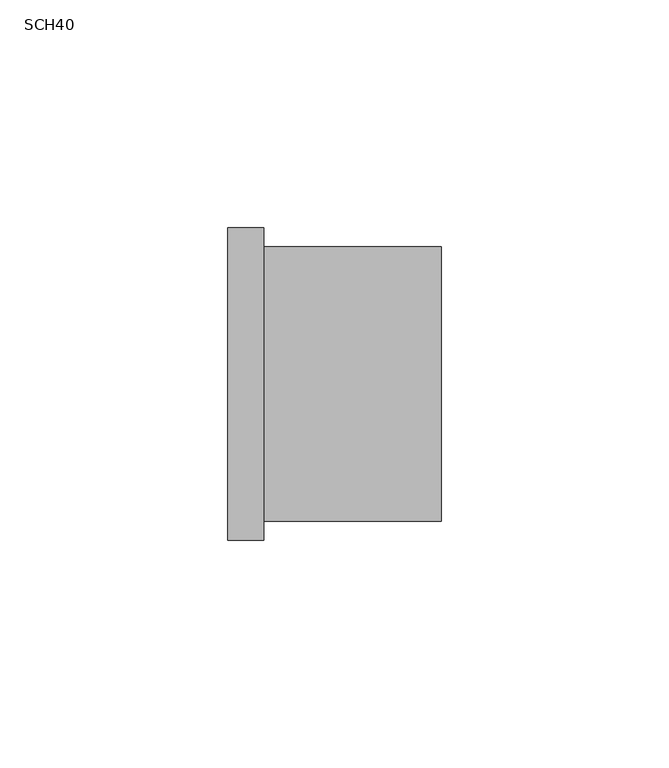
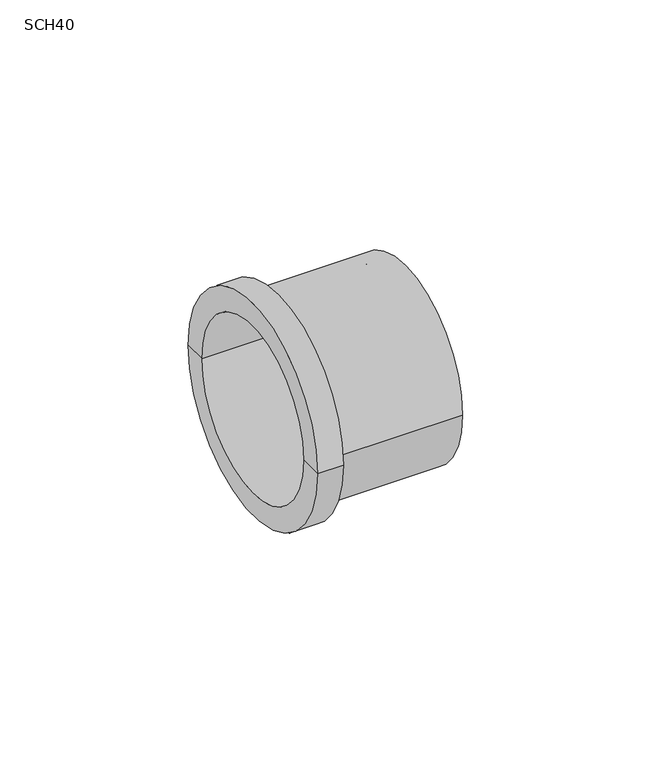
"""IFC4 building model written with IfcOpenShell, lengths in millimetres: pipe fitting geometry."""

from ifc_helpers import new_model, si_unit, frame, origin, place, context, project, spatial, polyline, circle_curve, source, transform, mapped, element, save
from ifc_brep_helpers import plane_surface, cylinder_surface, revolved_surface, advanced_brep


def sch40_d8840ade(model_context):
    return source(origin(), model_context, "Body", "AdvancedBrep", [
        advanced_brep(
        [(1.6, -30.15, 0.0), (1.6, 30.15, 0.0), (1.6, 26.1, 0.0), (1.6, -26.1, 0.0), (-1.6, -26.1, 0.0), (-1.6, 26.1, 0.0), (-1.6, 27.1, 0.0), (-1.6, -27.1, 0.0), (-45.3, 27.1, 0.0), (-45.3, -27.1, 0.0), (-45.3, 34.35, 0.0), (-45.3, -34.35, 0.0), (-37.4, 34.35, 0.0), (-37.4, -34.35, 0.0), (-37.4, 30.15, 0.0), (-37.4, -30.15, 0.0)],
        [
            (0, 1, circle_curve(frame((1.6, 0.0, 0.0), z_axis=(1.0, 0.0, 0.0), x_axis=(0.0, 1.0, 0.0)), 30.15)),
            (1, 2),
            (2, 3, circle_curve(frame((1.6, 0.0, 0.0), z_axis=(-1.0, 0.0, 0.0), x_axis=(0.0, 1.0, 0.0)), 26.1)),
            (3, 0),
            (1, 0, circle_curve(frame((1.6, 0.0, 0.0), z_axis=(1.0, 0.0, 0.0), x_axis=(0.0, 1.0, 0.0)), 30.15)),
            (3, 2, circle_curve(frame((1.6, 0.0, 0.0), z_axis=(-1.0, 0.0, 0.0), x_axis=(0.0, 1.0, 0.0)), 26.1)),
            (4, 5, circle_curve(frame((-1.6, 0.0, 0.0), z_axis=(1.0, 0.0, 0.0), x_axis=(0.0, 1.0, 0.0)), 26.1)),
            (5, 6),
            (6, 7, circle_curve(frame((-1.6, 0.0, 0.0), z_axis=(-1.0, 0.0, 0.0), x_axis=(0.0, 1.0, 0.0)), 27.1)),
            (7, 4),
            (5, 4, circle_curve(frame((-1.6, 0.0, 0.0), z_axis=(1.0, 0.0, 0.0), x_axis=(0.0, 1.0, 0.0)), 26.1)),
            (7, 6, circle_curve(frame((-1.6, 0.0, 0.0), z_axis=(-1.0, 0.0, 0.0), x_axis=(0.0, 1.0, 0.0)), 27.1)),
            (6, 8),
            (8, 9, circle_curve(frame((-45.3, 0.0, 0.0), z_axis=(-1.0, 0.0, 0.0), x_axis=(0.0, 1.0, 0.0)), 27.1)),
            (9, 7),
            (9, 8, circle_curve(frame((-45.3, 0.0, 0.0), z_axis=(-1.0, 0.0, 0.0), x_axis=(0.0, 1.0, 0.0)), 27.1)),
            (8, 10),
            (10, 11, circle_curve(frame((-45.3, 0.0, 0.0), z_axis=(-1.0, 0.0, 0.0), x_axis=(0.0, 1.0, 0.0)), 34.35)),
            (11, 9),
            (11, 10, circle_curve(frame((-45.3, 0.0, 0.0), z_axis=(-1.0, 0.0, 0.0), x_axis=(0.0, 1.0, 0.0)), 34.35)),
            (10, 12),
            (12, 13, circle_curve(frame((-37.4, 0.0, 0.0), z_axis=(-1.0, 0.0, 0.0), x_axis=(0.0, 1.0, 0.0)), 34.35)),
            (13, 11),
            (13, 12, circle_curve(frame((-37.4, 0.0, 0.0), z_axis=(-1.0, 0.0, 0.0), x_axis=(0.0, 1.0, 0.0)), 34.35)),
            (12, 14),
            (14, 15, circle_curve(frame((-37.4, 0.0, 0.0), z_axis=(-1.0, 0.0, 0.0), x_axis=(0.0, 1.0, 0.0)), 30.15)),
            (15, 13),
            (15, 14, circle_curve(frame((-37.4, 0.0, 0.0), z_axis=(-1.0, 0.0, 0.0), x_axis=(0.0, 1.0, 0.0)), 30.15)),
            (14, 1),
            (0, 15),
            (2, 5),
            (4, 3),
        ],
        [
            plane_surface(frame((1.6, 0.0, 0.0), z_axis=(1.0, 0.0, 0.0), x_axis=(0.0, 1.0, 0.0))),
            plane_surface(frame((-1.6, 0.0, 0.0), z_axis=(-1.0, 0.0, 0.0), x_axis=(0.0, 1.0, 0.0))),
            revolved_surface(polyline([(-45.299999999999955, 27.1, 0.0), (-1.599999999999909, 27.1, 0.0)]), (-2000.0, 0.0, 0.0), (-1.0, 0.0, 0.0)),
            plane_surface(frame((-45.3, 0.0, 0.0), z_axis=(-1.0, 0.0, 0.0), x_axis=(0.0, 1.0, 0.0))),
            cylinder_surface(frame((-2000.0, 0.0, 0.0), z_axis=(-1.0, 0.0, 0.0), x_axis=(0.0, 1.0, 0.0)), 34.35),
            plane_surface(frame((-37.4, 0.0, 0.0), z_axis=(1.0, 0.0, 0.0), x_axis=(0.0, 1.0, 0.0))),
            cylinder_surface(frame((-2000.0, 0.0, 0.0), z_axis=(-1.0, 0.0, 0.0), x_axis=(0.0, 1.0, 0.0)), 30.15),
            revolved_surface(polyline([(-1.599999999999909, 26.1, 0.0), (1.599999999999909, 26.1, 0.0)]), (-2000.0, 0.0, 0.0), (-1.0, 0.0, 0.0)),
        ],
        [
            (0, [[1, 2, 3, 4]]),
            (0, [[5, -4, 6, -2]]),
            (1, [[7, 8, 9, 10]]),
            (1, [[11, -10, 12, -8]]),
            (2, [[-9, 13, 14, 15]]),
            (2, [[-12, -15, 16, -13]]),
            (3, [[-14, 17, 18, 19]]),
            (3, [[-16, -19, 20, -17]]),
            (4, [[-18, 21, 22, 23]]),
            (4, [[-20, -23, 24, -21]]),
            (5, [[-22, 25, 26, 27]]),
            (5, [[-24, -27, 28, -25]]),
            (6, [[-26, 29, -1, 30]]),
            (6, [[-28, -30, -5, -29]]),
            (7, [[-3, 31, -7, 32]]),
            (7, [[-6, -32, -11, -31]]),
        ],
    ),
    ])


if __name__ == "__main__":
    model = new_model("IFC4")
    model_context = context("Model", 3, world=origin())
    ifc_project = project(units=[si_unit("LENGTHUNIT", "METRE", prefix="MILLI")], contexts=[model_context])
    site = spatial("IfcSite", under=ifc_project)
    building = spatial("IfcBuilding", under=site)
    placement = place(None, origin())
    sch40_shape = sch40_d8840ade(model_context)
    element("IfcPipeFitting", 1, ObjectType="PavcoWavin_UnionesDeTuberia_CpvcTransicionIPSxCTS2\" : SCH40", at=placement, inside=building, context=model_context, shape_type="MappedRepresentation", body=[
        mapped(sch40_shape, transform((0.0, 0.0, 0.0), x_axis=(1.0, 0.0, 0.0), y_axis=(0.0, 1.0, 0.0), z_axis=(0.0, 0.0, 1.0))),
    ])
    save(model, "model.ifc")
